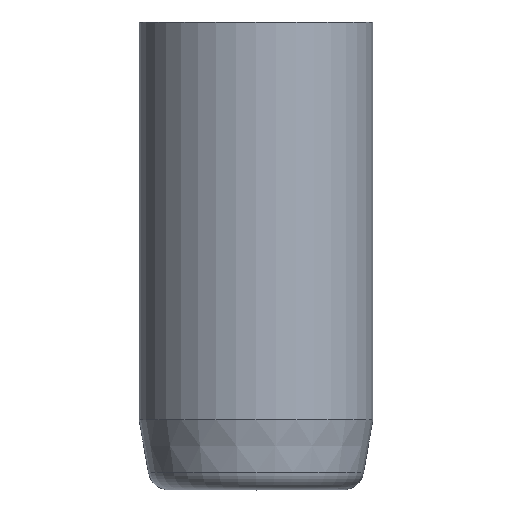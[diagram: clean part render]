
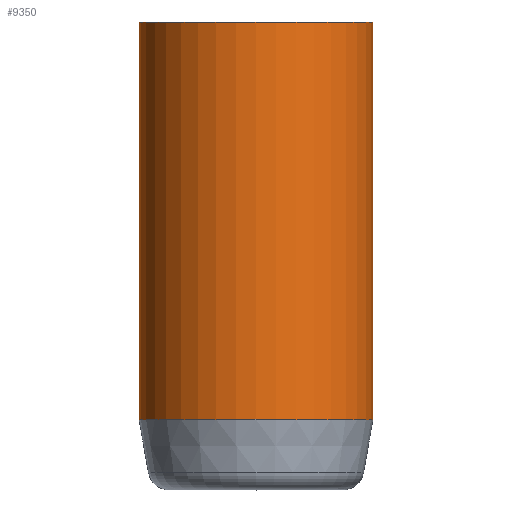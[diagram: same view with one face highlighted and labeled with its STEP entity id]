
A CAD part, top view. The second image highlights one B-rep face of the part: STEP entity #9350.
In plain terms, the highlighted cylindrical face has radius 5 mm (diameter 10 mm), a partial arc.
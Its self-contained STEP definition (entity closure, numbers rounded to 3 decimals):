
#603 = AXIS2_PLACEMENT_3D ( 'NONE', #4688, #4702, #4703 ) ;
#606 = CIRCLE ( 'NONE', #603, 5. ) ;
#783 = EDGE_CURVE ( 'NONE', #10173, #10172, #606, .T. ) ;
#1439 = DIRECTION ( 'NONE',  ( 0., 1., 0. ) ) ;
#1449 = CARTESIAN_POINT ( 'NONE',  ( 0., -10.1, 5. ) ) ;
#1464 = LINE ( 'NONE', #1449, #5631 ) ;
#1535 = LINE ( 'NONE', #1541, #5676 ) ;
#1541 = CARTESIAN_POINT ( 'NONE',  ( 0., -10.1, -5. ) ) ;
#1566 = CARTESIAN_POINT ( 'NONE',  ( 0., -10.1, 0. ) ) ;
#1586 = DIRECTION ( 'NONE',  ( 0., 1., 0. ) ) ;
#1592 = DIRECTION ( 'NONE',  ( 0., 1., 0. ) ) ;
#1597 = CYLINDRICAL_SURFACE ( 'NONE', #5695, 5. ) ;
#1608 = FACE_OUTER_BOUND ( 'NONE', #10428, .T. ) ;
#1612 = DIRECTION ( 'NONE',  ( 0., 0., 1. ) ) ;
#2121 = DIRECTION ( 'NONE',  ( -1., 0., 0. ) ) ;
#2125 = CARTESIAN_POINT ( 'NONE',  ( 0., 10., 0. ) ) ;
#2128 = DIRECTION ( 'NONE',  ( 0., -1., 0. ) ) ;
#2695 = CARTESIAN_POINT ( 'NONE',  ( 0., -7., -5. ) ) ;
#2712 = CARTESIAN_POINT ( 'NONE',  ( 0., 10., 5. ) ) ;
#2726 = CARTESIAN_POINT ( 'NONE',  ( 0., -7., 5. ) ) ;
#2804 = CARTESIAN_POINT ( 'NONE',  ( 0., 10., -5. ) ) ;
#4688 = CARTESIAN_POINT ( 'NONE',  ( 0., -7., 0. ) ) ;
#4702 = DIRECTION ( 'NONE',  ( 0., -1., 0. ) ) ;
#4703 = DIRECTION ( 'NONE',  ( 0., 0., -1. ) ) ;
#5631 = VECTOR ( 'NONE', #1439, 1000. ) ;
#5676 = VECTOR ( 'NONE', #1586, 1000. ) ;
#5695 = AXIS2_PLACEMENT_3D ( 'NONE', #1566, #1592, #1612 ) ;
#9158 = EDGE_CURVE ( 'NONE', #10173, #10153, #1464, .T. ) ;
#9199 = EDGE_CURVE ( 'NONE', #10172, #10226, #1535, .T. ) ;
#9341 = CIRCLE ( 'NONE', #9403, 5. ) ;
#9350 = ADVANCED_FACE ( 'NONE', ( #1608 ), #1597, .T. ) ;
#9403 = AXIS2_PLACEMENT_3D ( 'NONE', #2125, #2128, #2121 ) ;
#9628 = EDGE_CURVE ( 'NONE', #10153, #10226, #9341, .T. ) ;
#9785 = ORIENTED_EDGE ( 'NONE', *, *, #783, .F. ) ;
#9801 = ORIENTED_EDGE ( 'NONE', *, *, #9199, .F. ) ;
#9818 = ORIENTED_EDGE ( 'NONE', *, *, #9628, .T. ) ;
#9863 = ORIENTED_EDGE ( 'NONE', *, *, #9158, .T. ) ;
#10153 = VERTEX_POINT ( 'NONE', #2712 ) ;
#10172 = VERTEX_POINT ( 'NONE', #2695 ) ;
#10173 = VERTEX_POINT ( 'NONE', #2726 ) ;
#10226 = VERTEX_POINT ( 'NONE', #2804 ) ;
#10428 = EDGE_LOOP ( 'NONE', ( #9801, #9785, #9863, #9818 ) ) ;
